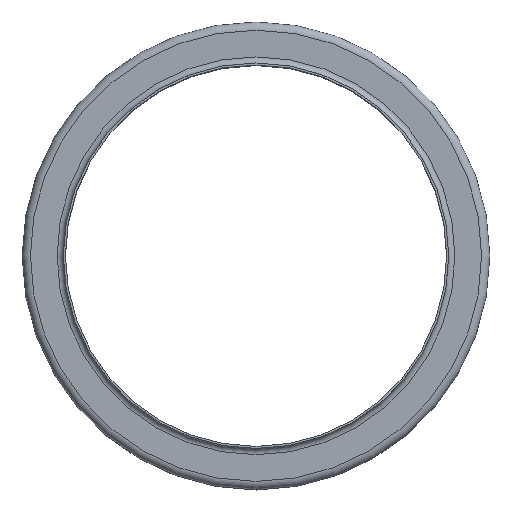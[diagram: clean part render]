
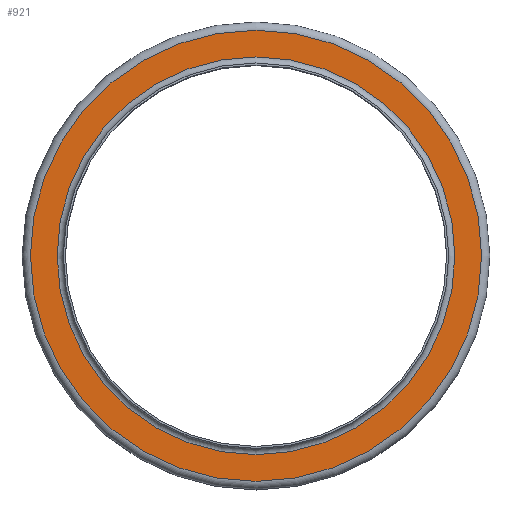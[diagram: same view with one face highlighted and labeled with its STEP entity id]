
A CAD part, top view. The second image highlights one B-rep face of the part: STEP entity #921.
In plain terms, the highlighted planar face has unit normal (0, 0, 1).
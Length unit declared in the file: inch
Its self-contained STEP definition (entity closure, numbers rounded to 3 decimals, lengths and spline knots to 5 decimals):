
#98=FACE_BOUND('',#272,.T.);
#165=FACE_OUTER_BOUND('',#271,.T.);
#271=EDGE_LOOP('',(#772));
#272=EDGE_LOOP('',(#773));
#385=CIRCLE('',#1110,3.4555);
#386=CIRCLE('',#1112,3.9195);
#466=VERTEX_POINT('',#1734);
#467=VERTEX_POINT('',#1738);
#571=EDGE_CURVE('',#466,#466,#385,.T.);
#572=EDGE_CURVE('',#467,#467,#386,.T.);
#772=ORIENTED_EDGE('',*,*,#572,.F.);
#773=ORIENTED_EDGE('',*,*,#571,.T.);
#854=PLANE('',#1111);
#921=ADVANCED_FACE('',(#165,#98),#854,.T.);
#1110=AXIS2_PLACEMENT_3D('',#1736,#1446,#1447);
#1111=AXIS2_PLACEMENT_3D('',#1737,#1448,#1449);
#1112=AXIS2_PLACEMENT_3D('',#1739,#1450,#1451);
#1446=DIRECTION('center_axis',(0.,0.,-1.));
#1447=DIRECTION('ref_axis',(1.,0.,0.));
#1448=DIRECTION('center_axis',(0.,0.,1.));
#1449=DIRECTION('ref_axis',(1.,0.,0.));
#1450=DIRECTION('center_axis',(0.,0.,-1.));
#1451=DIRECTION('ref_axis',(1.,0.,0.));
#1734=CARTESIAN_POINT('',(3.4555,0.,-0.107));
#1736=CARTESIAN_POINT('Origin',(0.,0.,-0.107));
#1737=CARTESIAN_POINT('Origin',(0.,3.9195,-0.107));
#1738=CARTESIAN_POINT('',(3.9195,0.,-0.107));
#1739=CARTESIAN_POINT('Origin',(0.,0.,-0.107));
